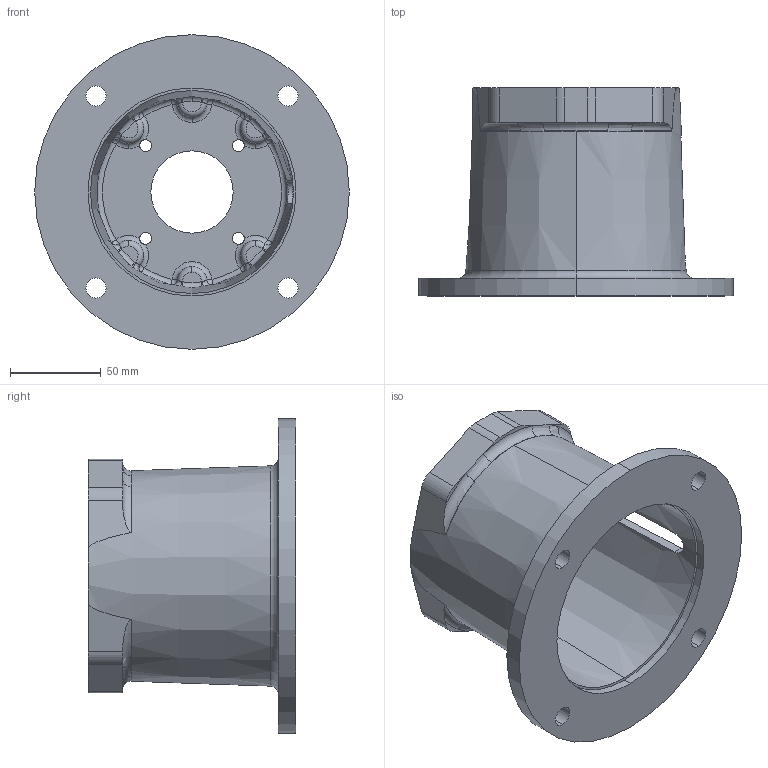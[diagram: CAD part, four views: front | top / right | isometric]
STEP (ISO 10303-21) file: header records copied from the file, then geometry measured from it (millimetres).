
FILE_DESCRIPTION (( 'STEP AP203' ), '1' );
FILE_NAME ('M056454F.STEP', '2008-05-16T19:24:26', ( 'Chris McCoy' ), ( 'Magnaloy Coupling Co' ), 'SwSTEP 2.0', 'SolidWorks 2008', '' );
FILE_SCHEMA (( 'CONFIG_CONTROL_DESIGN' ));
Length unit declared in the file: inch
Products named in the file (1): M056454F
Bounding box: 172.97 x 114.3 x 172.97 mm (x, y, z)
Volume: 395440 mm3; surface area: 124973.5 mm2
Topology: 1 solids, 1 shells, 203 faces, 522 edges, 308 vertices
Faces by surface type: torus 56, cylinder 44, bspline 40, plane 29, sphere 24, cone 10
Entity records: 7987 total; most frequent: CARTESIAN_POINT 3110, DIRECTION 1062, ORIENTED_EDGE 1020, EDGE_CURVE 510, AXIS2_PLACEMENT_3D 488, CIRCLE 324, VERTEX_POINT 308, EDGE_LOOP 222
